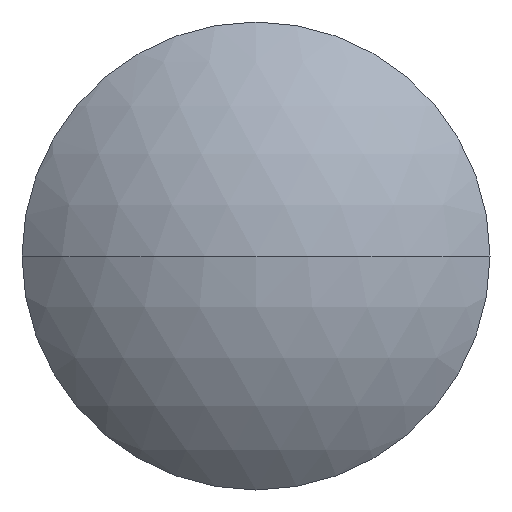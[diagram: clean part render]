
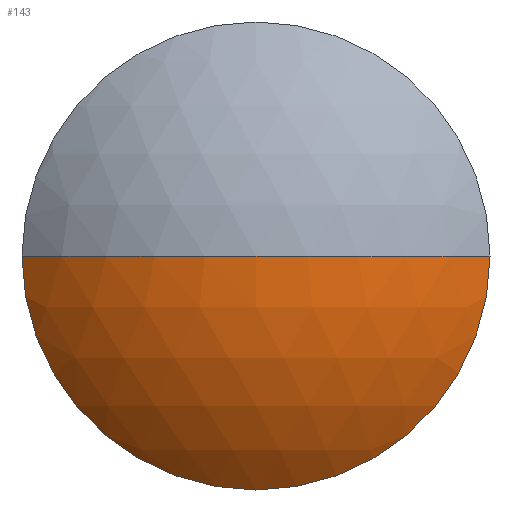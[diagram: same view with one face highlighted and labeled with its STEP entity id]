
A CAD part, left-side view. The second image highlights one B-rep face of the part: STEP entity #143.
In plain terms, the highlighted spherical face has radius 30.688 mm.
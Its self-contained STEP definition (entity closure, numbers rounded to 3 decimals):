
#5 = DIRECTION ( 'NONE',  ( 0., 0., -1. ) ) ;
#6 = ORIENTED_EDGE ( 'NONE', *, *, #310, .T. ) ;
#9 = CIRCLE ( 'NONE', #335, 21.2 ) ;
#28 = CIRCLE ( 'NONE', #140, 30.688 ) ;
#35 = CARTESIAN_POINT ( 'NONE',  ( -2.5, 21.2, 0. ) ) ;
#36 = SPHERICAL_SURFACE ( 'NONE', #163, 30.688 ) ;
#41 = EDGE_CURVE ( 'NONE', #186, #285, #156, .T. ) ;
#82 = CARTESIAN_POINT ( 'NONE',  ( -2.5, -21.2, 0. ) ) ;
#93 = CARTESIAN_POINT ( 'NONE',  ( 19.688, 0., 0. ) ) ;
#103 = VERTEX_POINT ( 'NONE', #295 ) ;
#112 = FACE_OUTER_BOUND ( 'NONE', #290, .T. ) ;
#113 = VERTEX_POINT ( 'NONE', #82 ) ;
#120 = EDGE_CURVE ( 'NONE', #186, #103, #216, .T. ) ;
#125 = DIRECTION ( 'NONE',  ( 0., 1., 0. ) ) ;
#126 = DIRECTION ( 'NONE',  ( -1., 0., 0. ) ) ;
#135 = ORIENTED_EDGE ( 'NONE', *, *, #41, .F. ) ;
#137 = DIRECTION ( 'NONE',  ( -1., 0., 0. ) ) ;
#140 = AXIS2_PLACEMENT_3D ( 'NONE', #150, #257, #125 ) ;
#142 = DIRECTION ( 'NONE',  ( 1., 0., 0. ) ) ;
#143 = ADVANCED_FACE ( 'NONE', ( #112 ), #36, .T. ) ;
#150 = CARTESIAN_POINT ( 'NONE',  ( 19.688, 0., 0. ) ) ;
#156 = CIRCLE ( 'NONE', #250, 30.688 ) ;
#157 = ORIENTED_EDGE ( 'NONE', *, *, #120, .T. ) ;
#163 = AXIS2_PLACEMENT_3D ( 'NONE', #93, #5, #221 ) ;
#186 = VERTEX_POINT ( 'NONE', #35 ) ;
#206 = DIRECTION ( 'NONE',  ( 0., 0., 1. ) ) ;
#208 = CARTESIAN_POINT ( 'NONE',  ( -2.5, 0., 0. ) ) ;
#216 = CIRCLE ( 'NONE', #236, 21.2 ) ;
#221 = DIRECTION ( 'NONE',  ( 0., 1., 0. ) ) ;
#236 = AXIS2_PLACEMENT_3D ( 'NONE', #322, #137, #243 ) ;
#243 = DIRECTION ( 'NONE',  ( 0., 0., 1. ) ) ;
#249 = CARTESIAN_POINT ( 'NONE',  ( -11., 0., 0. ) ) ;
#250 = AXIS2_PLACEMENT_3D ( 'NONE', #321, #296, #142 ) ;
#257 = DIRECTION ( 'NONE',  ( 0., 0., -1. ) ) ;
#265 = ORIENTED_EDGE ( 'NONE', *, *, #326, .T. ) ;
#285 = VERTEX_POINT ( 'NONE', #249 ) ;
#290 = EDGE_LOOP ( 'NONE', ( #157, #265, #6, #135 ) ) ;
#295 = CARTESIAN_POINT ( 'NONE',  ( -2.5, 0., -21.2 ) ) ;
#296 = DIRECTION ( 'NONE',  ( 0., 0., 1. ) ) ;
#310 = EDGE_CURVE ( 'NONE', #113, #285, #28, .T. ) ;
#321 = CARTESIAN_POINT ( 'NONE',  ( 19.688, 0., 0. ) ) ;
#322 = CARTESIAN_POINT ( 'NONE',  ( -2.5, 0., 0. ) ) ;
#326 = EDGE_CURVE ( 'NONE', #103, #113, #9, .T. ) ;
#335 = AXIS2_PLACEMENT_3D ( 'NONE', #208, #126, #206 ) ;
